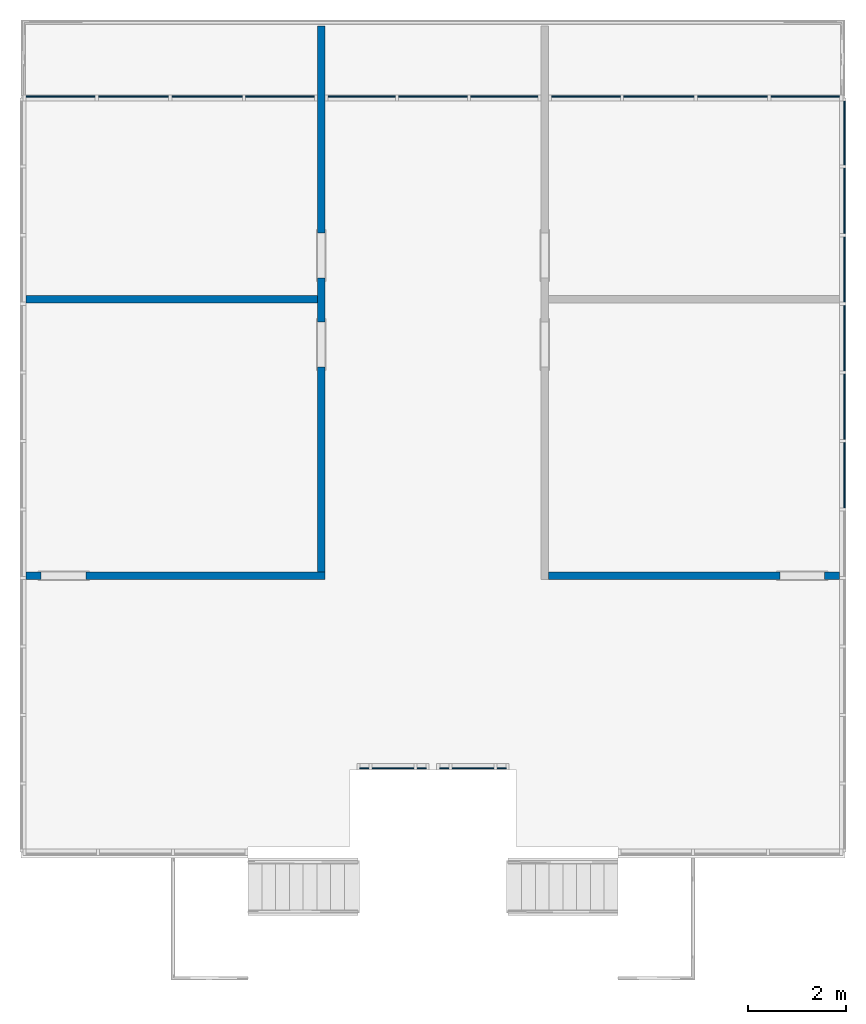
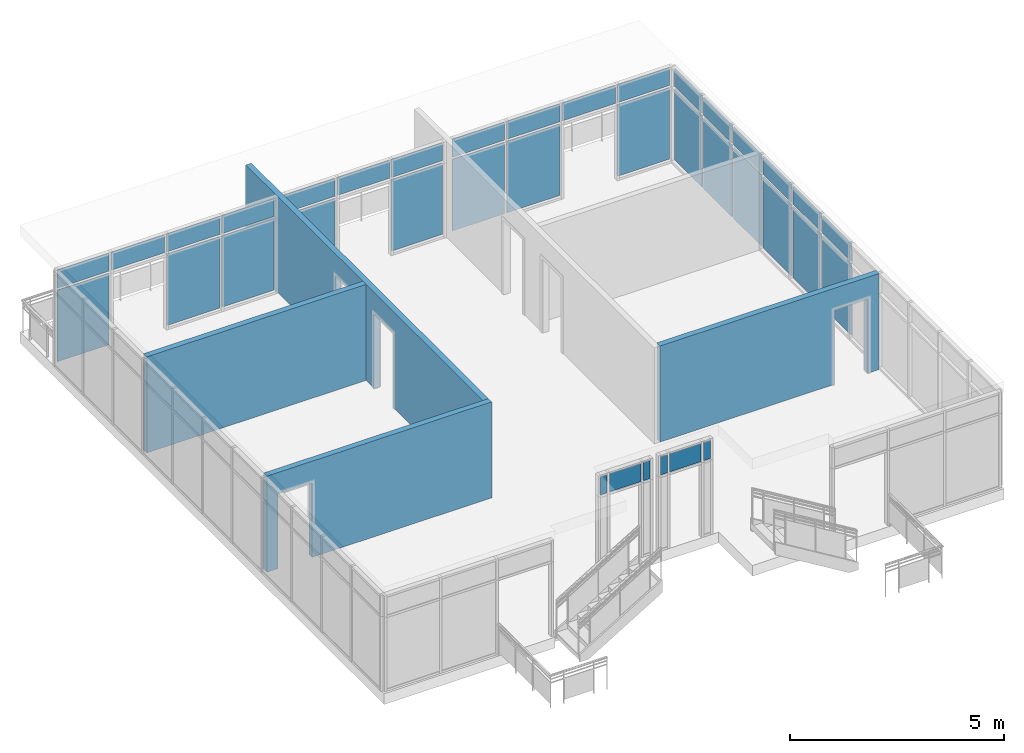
# One storey, part 6 of 11: 37 plates, 4 walls, 4 openings, 6 elements without a shape of their own.
"""IFC2X3 building model written with IfcOpenShell, lengths in feet."""

from ifc_helpers import new_model, entity, si_unit, converted_unit, derived_unit, direction, frame, frame_2d, origin, origin_2d_with_axis, place, context, subcontext, project, spatial, rectangle, extrude, source, transform, mapped, material, layer, layer_set, layer_usage, type_object, type_shapes, element, aggregate, save


model = new_model("IFC2X3")

# Units and contexts
model_context = context("Model", 3, precision=0.0001, world=origin(), true_north=direction((6.12303176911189e-17, 1.0)))
body_context = subcontext(model_context, "Body", "Model", "MODEL_VIEW")
ifc_project = project(units=[converted_unit("LENGTHUNIT", "FOOT", entity("IfcRatioMeasure", 0.3048), si_unit("LENGTHUNIT", "METRE"), dimensions=[1, 0, 0, 0, 0, 0, 0]), converted_unit("AREAUNIT", "SQUARE FOOT", entity("IfcRatioMeasure", 0.09290304), si_unit("AREAUNIT", "SQUARE_METRE"), dimensions=[2, 0, 0, 0, 0, 0, 0]), converted_unit("VOLUMEUNIT", "CUBIC FOOT", entity("IfcRatioMeasure", 0.028316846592), si_unit("VOLUMEUNIT", "CUBIC_METRE"), dimensions=[3, 0, 0, 0, 0, 0, 0]), converted_unit("PLANEANGLEUNIT", "DEGREE", entity("IfcRatioMeasure", 0.0174532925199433), si_unit("PLANEANGLEUNIT", "RADIAN"), dimensions=[0, 0, 0, 0, 0, 0, 0]), si_unit("MASSUNIT", "GRAM", prefix="KILO"), derived_unit("MASSDENSITYUNIT", [(si_unit("MASSUNIT", "GRAM", prefix="KILO"), 1), (si_unit("LENGTHUNIT", "METRE"), -3)]), si_unit("TIMEUNIT", "SECOND"), si_unit("FREQUENCYUNIT", "HERTZ"), si_unit("THERMODYNAMICTEMPERATUREUNIT", "DEGREE_CELSIUS"), derived_unit("THERMALTRANSMITTANCEUNIT", [(si_unit("MASSUNIT", "GRAM", prefix="KILO"), 1), (si_unit("THERMODYNAMICTEMPERATUREUNIT", "KELVIN"), -1), (si_unit("TIMEUNIT", "SECOND"), -3)]), derived_unit("VOLUMETRICFLOWRATEUNIT", [(si_unit("LENGTHUNIT", "METRE"), 3), (si_unit("TIMEUNIT", "SECOND"), -1)]), si_unit("ELECTRICCURRENTUNIT", "AMPERE"), si_unit("ELECTRICVOLTAGEUNIT", "VOLT"), si_unit("POWERUNIT", "WATT"), si_unit("FORCEUNIT", "NEWTON"), si_unit("ILLUMINANCEUNIT", "LUX"), si_unit("LUMINOUSFLUXUNIT", "LUMEN"), si_unit("LUMINOUSINTENSITYUNIT", "CANDELA"), derived_unit("USERDEFINED", [(si_unit("MASSUNIT", "GRAM", prefix="KILO"), -1), (si_unit("LENGTHUNIT", "METRE"), -2), (si_unit("TIMEUNIT", "SECOND"), 3), (si_unit("LUMINOUSFLUXUNIT", "LUMEN"), 1)]), derived_unit("LINEARVELOCITYUNIT", [(si_unit("LENGTHUNIT", "METRE"), 1), (si_unit("TIMEUNIT", "SECOND"), -1)]), si_unit("PRESSUREUNIT", "PASCAL"), derived_unit("USERDEFINED", [(si_unit("LENGTHUNIT", "METRE"), -2), (si_unit("MASSUNIT", "GRAM", prefix="KILO"), 1), (si_unit("TIMEUNIT", "SECOND"), -2)])], contexts=[model_context])

# Site, building, storey
site_placement = place(None, origin())
site = spatial("IfcSite", under=ifc_project, at=site_placement, Name="Default", CompositionType="ELEMENT")
building_placement = place(site_placement, origin())
building = spatial("IfcBuilding", under=site, at=building_placement, CompositionType="ELEMENT")
storey_placement = place(building_placement, frame((0.0, 0.0, 50.0)))
storey = spatial("IfcBuildingStorey", under=building, at=storey_placement, Name="L 9", CompositionType="ELEMENT", Elevation=49.9999999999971)

# Curtain wall, plates
curtain_wall_type = type_object("IfcCurtainWallType", Name="Curtain Wall:Storefront 2", PredefinedType="NOTDEFINED")
curtain_wall_1_placement = place(storey_placement, frame((0.0, 0.0, -50.0)))
curtain_wall_1 = element("IfcCurtainWall", 1, at=curtain_wall_1_placement, inside=storey, type_object=curtain_wall_type, Name="Curtain Wall:Storefront 2", ObjectType="Curtain Wall:Storefront 2")
ifc_material_1 = material(Name="<Unnamed>")
ifc_layer_1 = layer(ifc_material_1, 0.0833333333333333)
ifc_layer_set_1 = layer_set([ifc_layer_1], Name="Curtain Wall:Storefront")
ifc_layer_usage_1 = layer_usage(ifc_layer_set_1, "AXIS3", "POSITIVE", 0.104166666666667)
plate_type_1 = type_object("IfcPlateType", Name="Glazed", PredefinedType="CURTAIN_PANEL", material=ifc_layer_set_1)
shared_shape_1 = source(origin(), body_context, "Body", "SweptSolid", [
    extrude(rectangle(XDim=0.0833333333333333, YDim=0.604166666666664, at=frame_2d((-6.93889390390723e-18, -2.77555756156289e-17), x_axis=(1.0, 0.0))), frame((0.0, 0.104166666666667, 0.0), z_axis=(0.0, 0.0, 1.0), x_axis=(0.0, 1.0, 0.0)), (0.0, 0.0, 1.0), 1.6875),
])
type_shapes(plate_type_1, [shared_shape_1])
plate_1_placement = place(curtain_wall_1_placement, frame((-34.7522461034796, -1.23280792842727, 57.1041666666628), z_axis=(0.0, 0.0, 1.0), x_axis=(-1.0, 0.0, 0.0)))
plate_1 = element("IfcPlate", 2, at=plate_1_placement, type_object=plate_type_1, material=ifc_layer_usage_1, Name="System Panel:Glazed", ObjectType="Glazed", context=body_context, shape_type="MappedRepresentation", body=[
    mapped(shared_shape_1, transform((0.0, 0.0, 0.0), scale=1.0)),
])
ifc_layer_usage_2 = layer_usage(ifc_layer_set_1, "AXIS3", "POSITIVE", 0.104166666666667)
plate_2_placement = place(curtain_wall_1_placement, frame((-38.5647461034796, -1.23280792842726, 57.1041666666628), z_axis=(0.0, 0.0, 1.0), x_axis=(-1.0, 0.0, 0.0)))
plate_2 = element("IfcPlate", 3, at=plate_2_placement, type_object=plate_type_1, material=ifc_layer_usage_2, Name="System Panel:Glazed", ObjectType="Glazed", context=body_context, shape_type="MappedRepresentation", body=[
    mapped(shared_shape_1, transform((0.0, 0.0, 0.0), scale=1.0)),
])

curtain_wall_2_placement = place(storey_placement, frame((0.0, 0.0, -50.0)))
curtain_wall_2 = element("IfcCurtainWall", 4, at=curtain_wall_2_placement, inside=storey, type_object=curtain_wall_type, Name="Curtain Wall:Storefront 2", ObjectType="Curtain Wall:Storefront 2")
ifc_layer_usage_3 = layer_usage(ifc_layer_set_1, "AXIS3", "POSITIVE", 0.104166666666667)
plate_3_placement = place(curtain_wall_2_placement, frame((-29.4189127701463, -1.23280792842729, 57.1041666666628), z_axis=(0.0, 0.0, 1.0), x_axis=(-1.0, 0.0, 0.0)))
plate_3 = element("IfcPlate", 5, at=plate_3_placement, type_object=plate_type_1, material=ifc_layer_usage_3, Name="System Panel:Glazed", ObjectType="Glazed", context=body_context, shape_type="MappedRepresentation", body=[
    mapped(shared_shape_1, transform((0.0, 0.0, 0.0), scale=1.0)),
])
ifc_layer_usage_4 = layer_usage(ifc_layer_set_1, "AXIS3", "POSITIVE", 0.104166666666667)
plate_4_placement = place(curtain_wall_2_placement, frame((-33.2314127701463, -1.23280792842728, 57.1041666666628), z_axis=(0.0, 0.0, 1.0), x_axis=(-1.0, 0.0, 0.0)))
plate_4 = element("IfcPlate", 6, at=plate_4_placement, type_object=plate_type_1, material=ifc_layer_usage_4, Name="System Panel:Glazed", ObjectType="Glazed", context=body_context, shape_type="MappedRepresentation", body=[
    mapped(shared_shape_1, transform((0.0, 0.0, 0.0), scale=1.0)),
])

# Plate
ifc_layer_usage_5 = layer_usage(ifc_layer_set_1, "AXIS3", "POSITIVE", 0.104166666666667)
plate_type_2 = type_object("IfcPlateType", Name="Glazed", PredefinedType="CURTAIN_PANEL", material=ifc_layer_set_1)
shared_shape_2 = source(origin(), body_context, "Body", "SweptSolid", [
    extrude(rectangle(XDim=0.0833333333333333, YDim=2.79166666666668, at=frame_2d((-6.93889390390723e-18, 0.0), x_axis=(1.0, 0.0))), frame((0.0, 0.104166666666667, 0.0), z_axis=(0.0, 0.0, 1.0), x_axis=(0.0, 1.0, 0.0)), (0.0, 0.0, 1.0), 1.6875),
])
type_shapes(plate_type_2, [shared_shape_2])
plate_5_placement = place(curtain_wall_1_placement, frame((-36.6584961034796, -1.23280792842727, 57.1041666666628), z_axis=(0.0, 0.0, 1.0), x_axis=(-1.0, 0.0, 0.0)))
plate_5 = element("IfcPlate", 7, at=plate_5_placement, type_object=plate_type_2, material=ifc_layer_usage_5, Name="System Panel:Glazed", ObjectType="Glazed", context=body_context, shape_type="MappedRepresentation", body=[
    mapped(shared_shape_2, transform((0.0, 0.0, 0.0), scale=1.0)),
])

aggregate(curtain_wall_1, [plate_1, plate_5, plate_2])

ifc_layer_usage_6 = layer_usage(ifc_layer_set_1, "AXIS3", "POSITIVE", 0.104166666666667)
plate_6_placement = place(curtain_wall_2_placement, frame((-31.3251627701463, -1.23280792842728, 57.1041666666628), z_axis=(0.0, 0.0, 1.0), x_axis=(-1.0, 0.0, 0.0)))
plate_6 = element("IfcPlate", 8, at=plate_6_placement, type_object=plate_type_2, material=ifc_layer_usage_6, Name="System Panel:Glazed", ObjectType="Glazed", context=body_context, shape_type="MappedRepresentation", body=[
    mapped(shared_shape_2, transform((0.0, 0.0, 0.0), scale=1.0)),
])

aggregate(curtain_wall_2, [plate_3, plate_6, plate_4])

# Curtain wall, plates
curtain_wall_3_placement = place(storey_placement, frame((0.0, 0.0, -50.0)))
curtain_wall_3 = element("IfcCurtainWall", 9, at=curtain_wall_3_placement, inside=storey, type_object=curtain_wall_type, Name="Curtain Wall:Storefront 2", ObjectType="Curtain Wall:Storefront 2")
ifc_layer_usage_7 = layer_usage(ifc_layer_set_1, "AXIS3", "POSITIVE", 0.104166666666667)
plate_type_3 = type_object("IfcPlateType", Name="Glazed", PredefinedType="CURTAIN_PANEL", material=ifc_layer_set_1)
shared_shape_3 = source(origin(), body_context, "Body", "SweptSolid", [
    extrude(rectangle(XDim=0.0833333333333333, YDim=4.49053030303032, at=frame_2d((-6.93889390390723e-18, 0.0), x_axis=(1.0, 0.0))), frame((0.0, 0.104166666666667, 0.0), z_axis=(0.0, 0.0, 1.0), x_axis=(0.0, 1.0, 0.0)), (0.0, 0.0, 1.0), 6.6875),
])
type_shapes(plate_type_3, [shared_shape_3])
plate_7_placement = place(curtain_wall_3_placement, frame((-38.7427764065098, 43.3505254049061, 50.2083333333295)))
plate_7 = element("IfcPlate", 10, at=plate_7_placement, type_object=plate_type_3, material=ifc_layer_usage_7, Name="System Panel:Glazed", ObjectType="Glazed", context=body_context, shape_type="MappedRepresentation", body=[
    mapped(shared_shape_3, transform((0.0, 0.0, 0.0), scale=1.0)),
])
ifc_layer_usage_8 = layer_usage(ifc_layer_set_1, "AXIS3", "POSITIVE", 0.104166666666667)
plate_8_placement = place(curtain_wall_3_placement, frame((-29.2408824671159, 43.350525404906, 50.2083333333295)))
plate_8 = element("IfcPlate", 11, at=plate_8_placement, type_object=plate_type_3, material=ifc_layer_usage_8, Name="System Panel:Glazed", ObjectType="Glazed", context=body_context, shape_type="MappedRepresentation", body=[
    mapped(shared_shape_3, transform((0.0, 0.0, 0.0), scale=1.0)),
])
ifc_layer_usage_9 = layer_usage(ifc_layer_set_1, "AXIS3", "POSITIVE", 0.104166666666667)
plate_type_4 = type_object("IfcPlateType", Name="Glazed", PredefinedType="CURTAIN_PANEL", material=ifc_layer_set_1)
shared_shape_4 = source(origin(), body_context, "Body", "SweptSolid", [
    extrude(rectangle(XDim=0.0833333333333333, YDim=4.49053030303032, at=frame_2d((-6.93889390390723e-18, 0.0), x_axis=(1.0, 0.0))), frame((0.0, 0.104166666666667, 0.0), z_axis=(0.0, 0.0, 1.0), x_axis=(0.0, 1.0, 0.0)), (0.0, 0.0, 1.0), 1.6875),
])
type_shapes(plate_type_4, [shared_shape_4])
plate_9_placement = place(curtain_wall_3_placement, frame((-38.7427764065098, 43.3505254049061, 57.1041666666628)))
plate_9 = element("IfcPlate", 12, at=plate_9_placement, type_object=plate_type_4, material=ifc_layer_usage_9, Name="System Panel:Glazed", ObjectType="Glazed", context=body_context, shape_type="MappedRepresentation", body=[
    mapped(shared_shape_4, transform((0.0, 0.0, 0.0), scale=1.0)),
])
ifc_layer_usage_10 = layer_usage(ifc_layer_set_1, "AXIS3", "POSITIVE", 0.104166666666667)
plate_10_placement = place(curtain_wall_3_placement, frame((-29.2408824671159, 43.350525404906, 57.1041666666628)))
plate_10 = element("IfcPlate", 13, at=plate_10_placement, type_object=plate_type_4, material=ifc_layer_usage_10, Name="System Panel:Glazed", ObjectType="Glazed", context=body_context, shape_type="MappedRepresentation", body=[
    mapped(shared_shape_4, transform((0.0, 0.0, 0.0), scale=1.0)),
])

curtain_wall_4_placement = place(storey_placement, frame((0.0, 0.0, -50.0)))
curtain_wall_4 = element("IfcCurtainWall", 14, at=curtain_wall_4_placement, inside=storey, type_object=curtain_wall_type, Name="Curtain Wall:Storefront 2", ObjectType="Curtain Wall:Storefront 2")
ifc_layer_usage_11 = layer_usage(ifc_layer_set_1, "AXIS3", "POSITIVE", 0.104166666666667)
plate_type_5 = type_object("IfcPlateType", Name="Glazed", PredefinedType="CURTAIN_PANEL", material=ifc_layer_set_1)
shared_shape_5 = source(origin(), body_context, "Body", "SweptSolid", [
    extrude(rectangle(XDim=0.0833333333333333, YDim=4.59469696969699, at=frame_2d((-6.93889390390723e-18, 0.0), x_axis=(1.0, 0.0))), frame((0.0, 0.104166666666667, 0.0), z_axis=(0.0, 0.0, 1.0), x_axis=(0.0, 1.0, 0.0)), (0.0, 0.0, 1.0), 1.6875),
])
type_shapes(plate_type_5, [shared_shape_5])
plate_11_placement = place(curtain_wall_4_placement, frame((-58.8194809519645, 43.3505254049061, 57.1041666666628)))
plate_11 = element("IfcPlate", 15, at=plate_11_placement, type_object=plate_type_5, material=ifc_layer_usage_11, Name="System Panel:Glazed", ObjectType="Glazed", context=body_context, shape_type="MappedRepresentation", body=[
    mapped(shared_shape_5, transform((0.0, 0.0, 0.0), scale=1.0)),
])
ifc_layer_usage_12 = layer_usage(ifc_layer_set_1, "AXIS3", "POSITIVE", 0.104166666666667)
plate_12_placement = place(curtain_wall_4_placement, frame((-44.2020567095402, 43.3505254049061, 57.1041666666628)))
plate_12 = element("IfcPlate", 16, at=plate_12_placement, type_object=plate_type_5, material=ifc_layer_usage_12, Name="System Panel:Glazed", ObjectType="Glazed", context=body_context, shape_type="MappedRepresentation", body=[
    mapped(shared_shape_5, transform((0.0, 0.0, 0.0), scale=1.0)),
])

curtain_wall_5_placement = place(storey_placement, frame((0.0, 0.0, -50.0)))
curtain_wall_5 = element("IfcCurtainWall", 17, at=curtain_wall_5_placement, inside=storey, type_object=curtain_wall_type, Name="Curtain Wall:Storefront 2", ObjectType="Curtain Wall:Storefront 2")
ifc_layer_usage_13 = layer_usage(ifc_layer_set_1, "AXIS3", "POSITIVE", 0.104166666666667)
plate_13_placement = place(curtain_wall_5_placement, frame((-23.7816021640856, 43.350525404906, 57.1041666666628)))
plate_13 = element("IfcPlate", 18, at=plate_13_placement, type_object=plate_type_5, material=ifc_layer_usage_13, Name="System Panel:Glazed", ObjectType="Glazed", context=body_context, shape_type="MappedRepresentation", body=[
    mapped(shared_shape_5, transform((0.0, 0.0, 0.0), scale=1.0)),
])
ifc_layer_usage_14 = layer_usage(ifc_layer_set_1, "AXIS3", "POSITIVE", 0.104166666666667)
plate_14_placement = place(curtain_wall_5_placement, frame((-9.16417792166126, 43.350525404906, 57.1041666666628)))
plate_14 = element("IfcPlate", 19, at=plate_14_placement, type_object=plate_type_5, material=ifc_layer_usage_14, Name="System Panel:Glazed", ObjectType="Glazed", context=body_context, shape_type="MappedRepresentation", body=[
    mapped(shared_shape_5, transform((0.0, 0.0, 0.0), scale=1.0)),
])

# Plate
ifc_layer_usage_15 = layer_usage(ifc_layer_set_1, "AXIS3", "POSITIVE", 0.104166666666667)
plate_15_placement = place(curtain_wall_3_placement, frame((-33.9918294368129, 43.350525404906, 57.1041666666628)))
plate_15 = element("IfcPlate", 20, at=plate_15_placement, type_object=plate_type_5, material=ifc_layer_usage_15, Name="System Panel:Glazed", ObjectType="Glazed", context=body_context, shape_type="MappedRepresentation", body=[
    mapped(shared_shape_5, transform((0.0, 0.0, 0.0), scale=1.0)),
])

aggregate(curtain_wall_3, [plate_7, plate_8, plate_9, plate_15, plate_10])

# Curtain wall, plates
curtain_wall_6_placement = place(storey_placement, frame((0.0, 0.0, -50.0)))
curtain_wall_6 = element("IfcCurtainWall", 21, at=curtain_wall_6_placement, inside=storey, type_object=curtain_wall_type, Name="Curtain Wall:Storefront 2", ObjectType="Curtain Wall:Storefront 2")
ifc_layer_usage_16 = layer_usage(ifc_layer_set_1, "AXIS3", "POSITIVE", 0.104166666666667)
plate_type_6 = type_object("IfcPlateType", Name="Glazed", PredefinedType="CURTAIN_PANEL", material=ifc_layer_set_1)
shared_shape_6 = source(origin(), body_context, "Body", "SweptSolid", [
    extrude(rectangle(XDim=0.0833333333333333, YDim=4.25946969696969, at=frame_2d((-6.93889390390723e-18, 0.0), x_axis=(1.0, 0.0))), frame((0.0, 0.104166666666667, 0.0), z_axis=(0.0, 0.0, 1.0), x_axis=(0.0, 1.0, 0.0)), (0.0, 0.0, 1.0), 6.6875),
])
type_shapes(plate_type_6, [shared_shape_6])
plate_16_placement = place(curtain_wall_6_placement, frame((-6.65849610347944, 41.0124572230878, 50.2083333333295), z_axis=(0.0, 0.0, 1.0), x_axis=(0.0, -1.0, 0.0)))
plate_16 = element("IfcPlate", 22, at=plate_16_placement, type_object=plate_type_6, material=ifc_layer_usage_16, Name="System Panel:Glazed", ObjectType="Glazed", context=body_context, shape_type="MappedRepresentation", body=[
    mapped(shared_shape_6, transform((0.0, 0.0, 0.0), scale=1.0)),
])
ifc_layer_usage_17 = layer_usage(ifc_layer_set_1, "AXIS3", "POSITIVE", 0.104166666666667)
plate_type_7 = type_object("IfcPlateType", Name="Glazed", PredefinedType="CURTAIN_PANEL", material=ifc_layer_set_1)
shared_shape_7 = source(origin(), body_context, "Body", "SweptSolid", [
    extrude(rectangle(XDim=0.0833333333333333, YDim=4.36363636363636, at=frame_2d((-6.93889390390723e-18, 0.0), x_axis=(1.0, 0.0))), frame((0.0, 0.104166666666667, 0.0), z_axis=(0.0, 0.0, 1.0), x_axis=(0.0, 1.0, 0.0)), (0.0, 0.0, 1.0), 6.6875),
])
type_shapes(plate_type_7, [shared_shape_7])
plate_17_placement = place(curtain_wall_6_placement, frame((-6.65849610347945, 36.4925708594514, 50.2083333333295), z_axis=(0.0, 0.0, 1.0), x_axis=(0.0, -1.0, 0.0)))
plate_17 = element("IfcPlate", 23, at=plate_17_placement, type_object=plate_type_7, material=ifc_layer_usage_17, Name="System Panel:Glazed", ObjectType="Glazed", context=body_context, shape_type="MappedRepresentation", body=[
    mapped(shared_shape_7, transform((0.0, 0.0, 0.0), scale=1.0)),
])
ifc_layer_usage_18 = layer_usage(ifc_layer_set_1, "AXIS3", "POSITIVE", 0.104166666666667)
plate_18_placement = place(curtain_wall_6_placement, frame((-6.65849610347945, 31.9206011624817, 50.2083333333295), z_axis=(0.0, 0.0, 1.0), x_axis=(0.0, -1.0, 0.0)))
plate_18 = element("IfcPlate", 24, at=plate_18_placement, type_object=plate_type_7, material=ifc_layer_usage_18, Name="System Panel:Glazed", ObjectType="Glazed", context=body_context, shape_type="MappedRepresentation", body=[
    mapped(shared_shape_7, transform((0.0, 0.0, 0.0), scale=1.0)),
])
ifc_layer_usage_19 = layer_usage(ifc_layer_set_1, "AXIS3", "POSITIVE", 0.104166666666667)
plate_19_placement = place(curtain_wall_6_placement, frame((-6.65849610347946, 27.348631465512, 50.2083333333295), z_axis=(0.0, 0.0, 1.0), x_axis=(0.0, -1.0, 0.0)))
plate_19 = element("IfcPlate", 25, at=plate_19_placement, type_object=plate_type_7, material=ifc_layer_usage_19, Name="System Panel:Glazed", ObjectType="Glazed", context=body_context, shape_type="MappedRepresentation", body=[
    mapped(shared_shape_7, transform((0.0, 0.0, 0.0), scale=1.0)),
])
ifc_layer_usage_20 = layer_usage(ifc_layer_set_1, "AXIS3", "POSITIVE", 0.104166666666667)
plate_20_placement = place(curtain_wall_6_placement, frame((-6.65849610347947, 22.7766617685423, 50.2083333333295), z_axis=(0.0, 0.0, 1.0), x_axis=(0.0, -1.0, 0.0)))
plate_20 = element("IfcPlate", 26, at=plate_20_placement, type_object=plate_type_7, material=ifc_layer_usage_20, Name="System Panel:Glazed", ObjectType="Glazed", context=body_context, shape_type="MappedRepresentation", body=[
    mapped(shared_shape_7, transform((0.0, 0.0, 0.0), scale=1.0)),
])
ifc_layer_usage_21 = layer_usage(ifc_layer_set_1, "AXIS3", "POSITIVE", 0.104166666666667)
plate_21_placement = place(curtain_wall_6_placement, frame((-6.65849610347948, 18.2046920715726, 50.2083333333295), z_axis=(0.0, 0.0, 1.0), x_axis=(0.0, -1.0, 0.0)))
plate_21 = element("IfcPlate", 27, at=plate_21_placement, type_object=plate_type_7, material=ifc_layer_usage_21, Name="System Panel:Glazed", ObjectType="Glazed", context=body_context, shape_type="MappedRepresentation", body=[
    mapped(shared_shape_7, transform((0.0, 0.0, 0.0), scale=1.0)),
])
ifc_layer_usage_22 = layer_usage(ifc_layer_set_1, "AXIS3", "POSITIVE", 0.104166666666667)
plate_type_8 = type_object("IfcPlateType", Name="Glazed", PredefinedType="CURTAIN_PANEL", material=ifc_layer_set_1)
shared_shape_8 = source(origin(), body_context, "Body", "SweptSolid", [
    extrude(rectangle(XDim=0.0833333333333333, YDim=4.2594696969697, at=frame_2d((-6.93889390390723e-18, 0.0), x_axis=(1.0, 0.0))), frame((0.0, 0.104166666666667, 0.0), z_axis=(0.0, 0.0, 1.0), x_axis=(0.0, 1.0, 0.0)), (0.0, 0.0, 1.0), 1.6875),
])
type_shapes(plate_type_8, [shared_shape_8])
plate_22_placement = place(curtain_wall_6_placement, frame((-6.65849610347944, 41.0124572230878, 57.1041666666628), z_axis=(0.0, 0.0, 1.0), x_axis=(0.0, -1.0, 0.0)))
plate_22 = element("IfcPlate", 28, at=plate_22_placement, type_object=plate_type_8, material=ifc_layer_usage_22, Name="System Panel:Glazed", ObjectType="Glazed", context=body_context, shape_type="MappedRepresentation", body=[
    mapped(shared_shape_8, transform((0.0, 0.0, 0.0), scale=1.0)),
])
ifc_layer_usage_23 = layer_usage(ifc_layer_set_1, "AXIS3", "POSITIVE", 0.104166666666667)
plate_type_9 = type_object("IfcPlateType", Name="Glazed", PredefinedType="CURTAIN_PANEL", material=ifc_layer_set_1)
shared_shape_9 = source(origin(), body_context, "Body", "SweptSolid", [
    extrude(rectangle(XDim=0.0833333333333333, YDim=4.36363636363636, at=frame_2d((-6.93889390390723e-18, 0.0), x_axis=(1.0, 0.0))), frame((0.0, 0.104166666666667, 0.0), z_axis=(0.0, 0.0, 1.0), x_axis=(0.0, 1.0, 0.0)), (0.0, 0.0, 1.0), 1.6875),
])
type_shapes(plate_type_9, [shared_shape_9])
plate_23_placement = place(curtain_wall_6_placement, frame((-6.65849610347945, 36.4925708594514, 57.1041666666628), z_axis=(0.0, 0.0, 1.0), x_axis=(0.0, -1.0, 0.0)))
plate_23 = element("IfcPlate", 29, at=plate_23_placement, type_object=plate_type_9, material=ifc_layer_usage_23, Name="System Panel:Glazed", ObjectType="Glazed", context=body_context, shape_type="MappedRepresentation", body=[
    mapped(shared_shape_9, transform((0.0, 0.0, 0.0), scale=1.0)),
])
ifc_layer_usage_24 = layer_usage(ifc_layer_set_1, "AXIS3", "POSITIVE", 0.104166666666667)
plate_24_placement = place(curtain_wall_6_placement, frame((-6.65849610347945, 31.9206011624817, 57.1041666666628), z_axis=(0.0, 0.0, 1.0), x_axis=(0.0, -1.0, 0.0)))
plate_24 = element("IfcPlate", 30, at=plate_24_placement, type_object=plate_type_9, material=ifc_layer_usage_24, Name="System Panel:Glazed", ObjectType="Glazed", context=body_context, shape_type="MappedRepresentation", body=[
    mapped(shared_shape_9, transform((0.0, 0.0, 0.0), scale=1.0)),
])
ifc_layer_usage_25 = layer_usage(ifc_layer_set_1, "AXIS3", "POSITIVE", 0.104166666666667)
plate_25_placement = place(curtain_wall_6_placement, frame((-6.65849610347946, 27.348631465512, 57.1041666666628), z_axis=(0.0, 0.0, 1.0), x_axis=(0.0, -1.0, 0.0)))
plate_25 = element("IfcPlate", 31, at=plate_25_placement, type_object=plate_type_9, material=ifc_layer_usage_25, Name="System Panel:Glazed", ObjectType="Glazed", context=body_context, shape_type="MappedRepresentation", body=[
    mapped(shared_shape_9, transform((0.0, 0.0, 0.0), scale=1.0)),
])
ifc_layer_usage_26 = layer_usage(ifc_layer_set_1, "AXIS3", "POSITIVE", 0.104166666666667)
plate_26_placement = place(curtain_wall_6_placement, frame((-6.65849610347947, 22.7766617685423, 57.1041666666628), z_axis=(0.0, 0.0, 1.0), x_axis=(0.0, -1.0, 0.0)))
plate_26 = element("IfcPlate", 32, at=plate_26_placement, type_object=plate_type_9, material=ifc_layer_usage_26, Name="System Panel:Glazed", ObjectType="Glazed", context=body_context, shape_type="MappedRepresentation", body=[
    mapped(shared_shape_9, transform((0.0, 0.0, 0.0), scale=1.0)),
])
ifc_layer_usage_27 = layer_usage(ifc_layer_set_1, "AXIS3", "POSITIVE", 0.104166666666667)
plate_27_placement = place(curtain_wall_6_placement, frame((-6.65849610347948, 18.2046920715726, 57.1041666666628), z_axis=(0.0, 0.0, 1.0), x_axis=(0.0, -1.0, 0.0)))
plate_27 = element("IfcPlate", 33, at=plate_27_placement, type_object=plate_type_9, material=ifc_layer_usage_27, Name="System Panel:Glazed", ObjectType="Glazed", context=body_context, shape_type="MappedRepresentation", body=[
    mapped(shared_shape_9, transform((0.0, 0.0, 0.0), scale=1.0)),
])
aggregate(curtain_wall_6, [plate_16, plate_17, plate_18, plate_19, plate_20, plate_21, plate_22, plate_23, plate_24, plate_25, plate_26, plate_27])

# Plate
ifc_layer_usage_28 = layer_usage(ifc_layer_set_1, "AXIS3", "POSITIVE", 0.104166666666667)
plate_type_10 = type_object("IfcPlateType", Name="Glazed", PredefinedType="CURTAIN_PANEL", material=ifc_layer_set_1)
shared_shape_10 = source(origin(), body_context, "Body", "SweptSolid", [
    extrude(rectangle(XDim=0.0833333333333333, YDim=4.59469696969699, at=frame_2d((-6.93889390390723e-18, 0.0), x_axis=(1.0, 0.0))), frame((0.0, 0.104166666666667, 0.0), z_axis=(0.0, 0.0, 1.0), x_axis=(0.0, 1.0, 0.0)), (0.0, 0.0, 1.0), 6.6875),
])
type_shapes(plate_type_10, [shared_shape_10])
plate_28_placement = place(curtain_wall_4_placement, frame((-58.8194809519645, 43.3505254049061, 50.2083333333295)))
plate_28 = element("IfcPlate", 34, at=plate_28_placement, type_object=plate_type_10, material=ifc_layer_usage_28, Name="System Panel:Glazed", ObjectType="Glazed", context=body_context, shape_type="MappedRepresentation", body=[
    mapped(shared_shape_10, transform((0.0, 0.0, 0.0), scale=1.0)),
])

ifc_layer_usage_29 = layer_usage(ifc_layer_set_1, "AXIS3", "POSITIVE", 0.104166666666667)
plate_29_placement = place(curtain_wall_4_placement, frame((-44.2020567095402, 43.3505254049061, 50.2083333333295)))
plate_29 = element("IfcPlate", 35, at=plate_29_placement, type_object=plate_type_10, material=ifc_layer_usage_29, Name="System Panel:Glazed", ObjectType="Glazed", context=body_context, shape_type="MappedRepresentation", body=[
    mapped(shared_shape_10, transform((0.0, 0.0, 0.0), scale=1.0)),
])

ifc_layer_usage_30 = layer_usage(ifc_layer_set_1, "AXIS3", "POSITIVE", 0.104166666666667)
plate_30_placement = place(curtain_wall_5_placement, frame((-23.7816021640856, 43.350525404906, 50.2083333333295)))
plate_30 = element("IfcPlate", 36, at=plate_30_placement, type_object=plate_type_10, material=ifc_layer_usage_30, Name="System Panel:Glazed", ObjectType="Glazed", context=body_context, shape_type="MappedRepresentation", body=[
    mapped(shared_shape_10, transform((0.0, 0.0, 0.0), scale=1.0)),
])

ifc_layer_usage_31 = layer_usage(ifc_layer_set_1, "AXIS3", "POSITIVE", 0.104166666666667)
plate_31_placement = place(curtain_wall_5_placement, frame((-9.16417792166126, 43.350525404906, 50.2083333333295)))
plate_31 = element("IfcPlate", 37, at=plate_31_placement, type_object=plate_type_10, material=ifc_layer_usage_31, Name="System Panel:Glazed", ObjectType="Glazed", context=body_context, shape_type="MappedRepresentation", body=[
    mapped(shared_shape_10, transform((0.0, 0.0, 0.0), scale=1.0)),
])

ifc_layer_usage_32 = layer_usage(ifc_layer_set_1, "AXIS3", "POSITIVE", 0.104166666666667)
plate_type_11 = type_object("IfcPlateType", Name="Glazed", PredefinedType="CURTAIN_PANEL", material=ifc_layer_set_1)
shared_shape_11 = source(origin(), body_context, "Body", "SweptSolid", [
    extrude(rectangle(XDim=0.0833333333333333, YDim=4.69886363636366, at=frame_2d((-6.93889390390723e-18, 0.0), x_axis=(1.0, 0.0))), frame((0.0, 0.104166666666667, 0.0), z_axis=(0.0, 0.0, 1.0), x_axis=(0.0, 1.0, 0.0)), (0.0, 0.0, 1.0), 6.6875),
])
type_shapes(plate_type_11, [shared_shape_11])
plate_32_placement = place(curtain_wall_4_placement, frame((-49.0571703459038, 43.3505254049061, 50.2083333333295)))
plate_32 = element("IfcPlate", 38, at=plate_32_placement, type_object=plate_type_11, material=ifc_layer_usage_32, Name="System Panel:Glazed", ObjectType="Glazed", context=body_context, shape_type="MappedRepresentation", body=[
    mapped(shared_shape_11, transform((0.0, 0.0, 0.0), scale=1.0)),
])

ifc_layer_usage_33 = layer_usage(ifc_layer_set_1, "AXIS3", "POSITIVE", 0.104166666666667)
plate_33_placement = place(curtain_wall_5_placement, frame((-18.9264885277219, 43.350525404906, 50.2083333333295)))
plate_33 = element("IfcPlate", 39, at=plate_33_placement, type_object=plate_type_11, material=ifc_layer_usage_33, Name="System Panel:Glazed", ObjectType="Glazed", context=body_context, shape_type="MappedRepresentation", body=[
    mapped(shared_shape_11, transform((0.0, 0.0, 0.0), scale=1.0)),
])

ifc_layer_usage_34 = layer_usage(ifc_layer_set_1, "AXIS3", "POSITIVE", 0.104166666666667)
plate_type_12 = type_object("IfcPlateType", Name="Glazed", PredefinedType="CURTAIN_PANEL", material=ifc_layer_set_1)
shared_shape_12 = source(origin(), body_context, "Body", "SweptSolid", [
    extrude(rectangle(XDim=0.0833333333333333, YDim=4.69886363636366, at=frame_2d((-6.93889390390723e-18, 0.0), x_axis=(1.0, 0.0))), frame((0.0, 0.104166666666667, 0.0), z_axis=(0.0, 0.0, 1.0), x_axis=(0.0, 1.0, 0.0)), (0.0, 0.0, 1.0), 1.6875),
])
type_shapes(plate_type_12, [shared_shape_12])
plate_34_placement = place(curtain_wall_4_placement, frame((-53.9643673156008, 43.3505254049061, 57.1041666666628)))
plate_34 = element("IfcPlate", 40, at=plate_34_placement, type_object=plate_type_12, material=ifc_layer_usage_34, Name="System Panel:Glazed", ObjectType="Glazed", context=body_context, shape_type="MappedRepresentation", body=[
    mapped(shared_shape_12, transform((0.0, 0.0, 0.0), scale=1.0)),
])

ifc_layer_usage_35 = layer_usage(ifc_layer_set_1, "AXIS3", "POSITIVE", 0.104166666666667)
plate_35_placement = place(curtain_wall_4_placement, frame((-49.0571703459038, 43.3505254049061, 57.1041666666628)))
plate_35 = element("IfcPlate", 41, at=plate_35_placement, type_object=plate_type_12, material=ifc_layer_usage_35, Name="System Panel:Glazed", ObjectType="Glazed", context=body_context, shape_type="MappedRepresentation", body=[
    mapped(shared_shape_12, transform((0.0, 0.0, 0.0), scale=1.0)),
])

aggregate(curtain_wall_4, [plate_28, plate_32, plate_29, plate_11, plate_34, plate_35, plate_12])

ifc_layer_usage_36 = layer_usage(ifc_layer_set_1, "AXIS3", "POSITIVE", 0.104166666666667)
plate_36_placement = place(curtain_wall_5_placement, frame((-18.9264885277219, 43.350525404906, 57.1041666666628)))
plate_36 = element("IfcPlate", 42, at=plate_36_placement, type_object=plate_type_12, material=ifc_layer_usage_36, Name="System Panel:Glazed", ObjectType="Glazed", context=body_context, shape_type="MappedRepresentation", body=[
    mapped(shared_shape_12, transform((0.0, 0.0, 0.0), scale=1.0)),
])

ifc_layer_usage_37 = layer_usage(ifc_layer_set_1, "AXIS3", "POSITIVE", 0.104166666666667)
plate_37_placement = place(curtain_wall_5_placement, frame((-14.0192915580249, 43.350525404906, 57.1041666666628)))
plate_37 = element("IfcPlate", 43, at=plate_37_placement, type_object=plate_type_12, material=ifc_layer_usage_37, Name="System Panel:Glazed", ObjectType="Glazed", context=body_context, shape_type="MappedRepresentation", body=[
    mapped(shared_shape_12, transform((0.0, 0.0, 0.0), scale=1.0)),
])

aggregate(curtain_wall_5, [plate_30, plate_33, plate_31, plate_13, plate_36, plate_37, plate_14])

# Wall, openings
ifc_material_2 = material(Name="Default Wall")
ifc_layer_2 = layer(ifc_material_2, 0.5)
ifc_layer_set_2 = layer_set([ifc_layer_2], Name="Basic Wall:Generic - 6\"")
ifc_layer_usage_38 = layer_usage(ifc_layer_set_2, "AXIS2", "NEGATIVE", 0.25)
wall_type = type_object("IfcWallType", Name="Basic Wall:Generic - 6\"", PredefinedType="STANDARD", material=ifc_layer_set_2)
wall_1_placement = place(storey_placement, frame((-41.4463748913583, 48.1421920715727, 0.0), z_axis=(0.0, 0.0, 1.0), x_axis=(0.0, -1.0, 0.0)))
wall_1 = element("IfcWallStandardCase", 44, at=wall_1_placement, inside=storey, type_object=wall_type, material=ifc_layer_usage_38, Name="Basic Wall:Generic - 6\"", ObjectType="Basic Wall:Generic - 6\":219", context=body_context, shape_type="SweptSolid", body=[
    extrude(rectangle(XDim=36.4027777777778, YDim=0.5, at=frame_2d((18.2013888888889, 7.49400541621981e-16), x_axis=(-1.0, 0.0))), origin(), (0.0, 0.0, 1.0), 9.0),
])
opening_1_placement = place(wall_1_placement, origin())
element("IfcOpeningElement", 45, at=opening_1_placement, cuts=wall_1, Name="Basic Wall:Generic - 6\"", ObjectType="Opening", context=body_context, shape_type="SweptSolid", body=[
    extrude(rectangle(XDim=7.0, YDim=3.0, at=origin_2d_with_axis()), frame((21.2222222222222, -4.75, 3.5), z_axis=(0.0, 1.0, 0.0), x_axis=(0.0, 0.0, -1.0)), (0.0, 0.0, 1.0), 10.0),
])
opening_2_placement = place(wall_1_placement, origin())
element("IfcOpeningElement", 46, at=opening_2_placement, cuts=wall_1, Name="Basic Wall:Generic - 6\"", ObjectType="Opening", context=body_context, shape_type="SweptSolid", body=[
    extrude(rectangle(XDim=7.0, YDim=3.0, at=origin_2d_with_axis()), frame((15.2916666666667, -4.74999999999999, 3.5), z_axis=(0.0, 1.0, 0.0), x_axis=(0.0, 0.0, -1.0)), (0.0, 0.0, 1.0), 10.0),
])

# Wall
ifc_layer_usage_39 = layer_usage(ifc_layer_set_2, "AXIS2", "NEGATIVE", 0.25)
wall_2_placement = place(storey_placement, frame((-41.6963748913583, 29.9199698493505, 0.0), z_axis=(0.0, 0.0, 1.0), x_axis=(-1.0, 0.0, 0.0)))
element("IfcWallStandardCase", 47, at=wall_2_placement, inside=storey, type_object=wall_type, material=ifc_layer_usage_39, Name="Basic Wall:Generic - 6\"", ObjectType="Basic Wall:Generic - 6\":219", context=body_context, shape_type="SweptSolid", body=[
    extrude(rectangle(XDim=19.4204545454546, YDim=0.5, at=frame_2d((9.7102272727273, -4.02455846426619e-16), x_axis=(-1.0, 0.0))), origin(), (0.0, 0.0, 1.0), 9.0),
])

# Wall, opening
ifc_layer_usage_40 = layer_usage(ifc_layer_set_2, "AXIS2", "NEGATIVE", 0.25)
wall_3_placement = place(storey_placement, frame((-61.1168294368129, 11.489414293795, 0.0)))
wall_3 = element("IfcWallStandardCase", 48, at=wall_3_placement, inside=storey, type_object=wall_type, material=ifc_layer_usage_40, Name="Basic Wall:Generic - 6\"", ObjectType="Basic Wall:Generic - 6\":219", context=body_context, shape_type="SweptSolid", body=[
    extrude(rectangle(XDim=19.9204545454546, YDim=0.5, at=frame_2d((9.96022727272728, 4.16333634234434e-16), x_axis=(-1.0, 0.0))), origin(), (0.0, 0.0, 1.0), 9.0),
])
opening_3_placement = place(wall_3_placement, origin())
element("IfcOpeningElement", 49, at=opening_3_placement, cuts=wall_3, Name="Basic Wall:Generic - 6\"", ObjectType="Opening", context=body_context, shape_type="SweptSolid", body=[
    extrude(rectangle(XDim=7.0, YDim=3.0, at=origin_2d_with_axis()), frame((2.50000000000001, -4.75, 3.5), z_axis=(0.0, 1.0, 0.0), x_axis=(0.0, 0.0, -1.0)), (0.0, 0.0, 1.0), 10.0),
])

ifc_layer_usage_41 = layer_usage(ifc_layer_set_2, "AXIS2", "NEGATIVE", 0.25)
wall_4_placement = place(storey_placement, frame((-6.86682943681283, 11.4894142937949, 0.0), z_axis=(0.0, 0.0, 1.0), x_axis=(-1.0, 0.0, 0.0)))
wall_4 = element("IfcWallStandardCase", 50, at=wall_4_placement, inside=storey, type_object=wall_type, material=ifc_layer_usage_41, Name="Basic Wall:Generic - 6\"", ObjectType="Basic Wall:Generic - 6\":219", context=body_context, shape_type="SweptSolid", body=[
    extrude(rectangle(XDim=19.4204545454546, YDim=0.5, at=frame_2d((9.7102272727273, -3.19189119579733e-16), x_axis=(-1.0, 0.0))), origin(), (0.0, 0.0, 1.0), 9.0),
])
opening_4_placement = place(wall_4_placement, origin())
element("IfcOpeningElement", 51, at=opening_4_placement, cuts=wall_4, Name="Basic Wall:Generic - 6\"", ObjectType="Opening", context=body_context, shape_type="SweptSolid", body=[
    extrude(rectangle(XDim=7.0, YDim=3.0, at=frame_2d((0.0, -8.88178419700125e-16), x_axis=(1.0, 0.0))), frame((2.5, -4.75, 3.5), z_axis=(0.0, 1.0, 0.0), x_axis=(0.0, 0.0, -1.0)), (0.0, 0.0, 1.0), 10.0),
])

save(model, "model.ifc")
